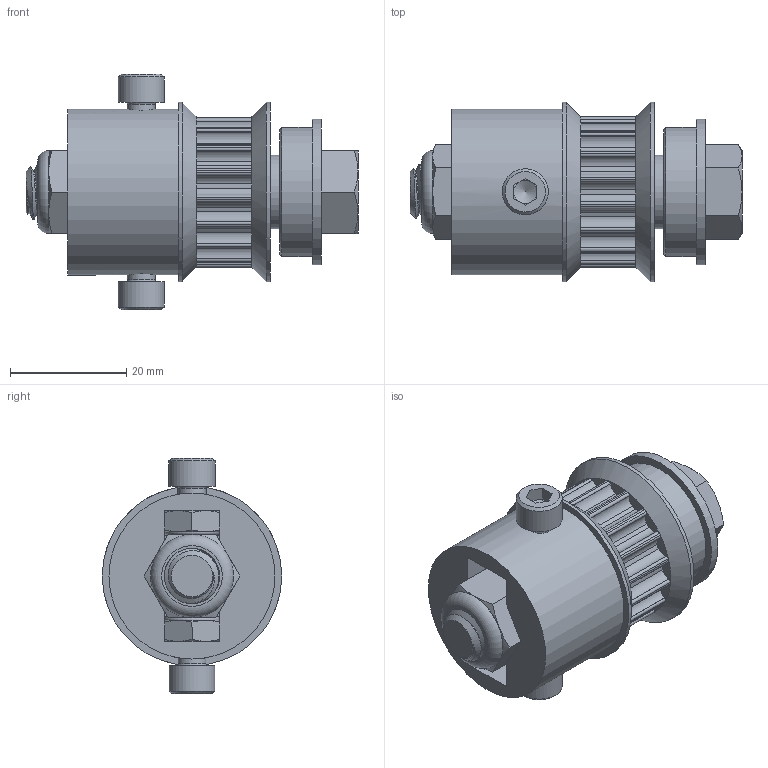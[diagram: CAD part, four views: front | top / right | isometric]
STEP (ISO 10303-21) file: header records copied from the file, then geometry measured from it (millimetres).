
FILE_DESCRIPTION(/* description */ ('STEP AP242 Edition 2','CAx-IF Rec.Pracs.---Representation and Presentation of Product Manufacturing Information (PMI)---4.0---2014-10-13','CAx-IF Rec.Pracs.---3D Tessellated Geometry---0.4---2014-09-14','2;1','CAx-IF Rec.Pracs.---User Defined Attributes---1.5---2016-08-15'),/* implementation_level */ '2;1');
FILE_NAME(/* name */ '69319db12aade48f1d454b5e',/* time_stamp */ '2025-12-04T14:41:53Z',/* author */ (''),/* organization */ (''),/* preprocessor_version */ 'ST-DEVELOPER v20',/* originating_system */ 'ONSHAPE BY PTC INC, 1.207',/* authorisation */ ' ');
FILE_SCHEMA (('AP242_MANAGED_MODEL_BASED_3D_ENGINEERING_MIM_LF { 1 0 10303 442 3 1 4 }'));
Length unit declared in the file: metre
Products named in the file (19): Dead Axle Roller Assembly; am-1359; am-1623 3/8-16 2in; am-1063 10-32 Nylock Jam Nut; 17T Dead Axle Roller Insert; am-4463 <1>; am-4463 3-8 in ID 7-8 in OD Sealed Flanged Bearing FR62RS; am-1054 3/8-16 Nylock Nut
Assembly tree (20 placements, depth 3):
  Dead Axle Roller Assembly
    am-1359  x2
    am-1623 3/8-16 2in
    am-1063 10-32 Nylock Jam Nut  x2
    17T Dead Axle Roller Insert
    am-4463 <1>
      am-4463 3-8 in ID 7-8 in OD Sealed Flanged Bearing FR62RS
      am-4463 3-8 in ID 7-8 in OD Sealed Flanged Bearing FR62RS
      am-4463 3-8 in ID 7-8 in OD Sealed Flanged Bearing FR62RS
      am-4463 3-8 in ID 7-8 in OD Sealed Flanged Bearing FR62RS
      am-4463 3-8 in ID 7-8 in OD Sealed Flanged Bearing FR62RS
      am-4463 3-8 in ID 7-8 in OD Sealed Flanged Bearing FR62RS
      am-4463 3-8 in ID 7-8 in OD Sealed Flanged Bearing FR62RS
      am-4463 3-8 in ID 7-8 in OD Sealed Flanged Bearing FR62RS
      am-4463 3-8 in ID 7-8 in OD Sealed Flanged Bearing FR62RS
      am-4463 3-8 in ID 7-8 in OD Sealed Flanged Bearing FR62RS
      am-4463 3-8 in ID 7-8 in OD Sealed Flanged Bearing FR62RS
      am-4463 3-8 in ID 7-8 in OD Sealed Flanged Bearing FR62RS
    am-1054 3/8-16 Nylock Nut
Bounding box: 57.15 x 30.91 x 40.57 mm (x, y, z)
Volume: 23808 mm3; surface area: 15289.2 mm2
Topology: 19 solids, 19 shells, 475 faces, 1172 edges, 730 vertices
Faces by surface type: cylinder 185, plane 164, cone 104, torus 10, sphere 10, bspline 2
Full cylindrical faces by diameter (mm): 4.178 x6, 4.826 x10, 5.105 x2, 6.08 x2, 7.938 x2, 8.236 x5, 9.525 x22, 9.804 x1, 12.7 x1, 14.549 x4, 17.201 x4, 22.225 x1, 25.019 x1, 28.575 x1, 30.913 x2
Entity records: 13482 total; most frequent: CARTESIAN_POINT 4419, DIRECTION 1906, ORIENTED_EDGE 1620, EDGE_CURVE 810, AXIS2_PLACEMENT_3D 808, VERTEX_POINT 544, FACE_BOUND 490, EDGE_LOOP 479
